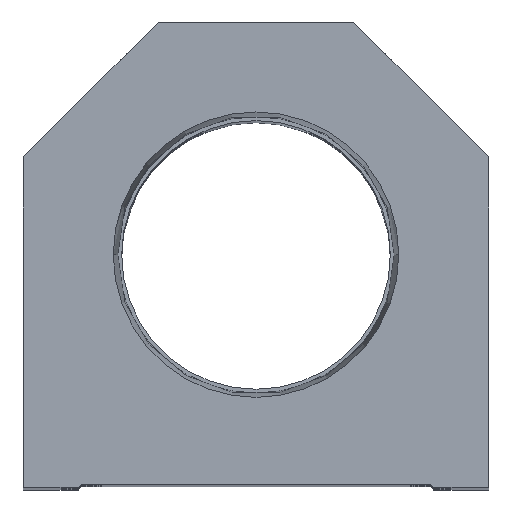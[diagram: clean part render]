
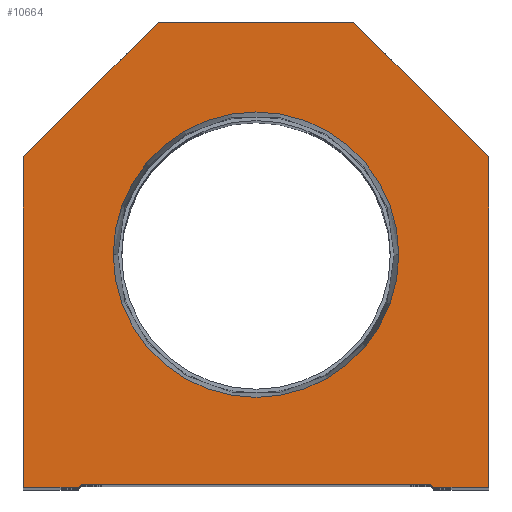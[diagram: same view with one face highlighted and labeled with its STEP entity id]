
A CAD part, top view. The second image highlights one B-rep face of the part: STEP entity #10664.
In plain terms, the highlighted planar face has unit normal (0, 0, 1).
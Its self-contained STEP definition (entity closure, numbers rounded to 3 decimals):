
#333 = AXIS2_PLACEMENT_3D ( 'NONE', #2465, #3892, #11067 ) ;
#819 = VECTOR ( 'NONE', #5958, 1000. ) ;
#920 = CARTESIAN_POINT ( 'NONE',  ( 16., 76.2, 0. ) ) ;
#1081 = FACE_OUTER_BOUND ( 'NONE', #15087, .T. ) ;
#1143 = LINE ( 'NONE', #6821, #1937 ) ;
#1570 = DIRECTION ( 'NONE',  ( 1., 0., 0. ) ) ;
#1906 = DIRECTION ( 'NONE',  ( -0.707, 0.707, 0. ) ) ;
#1924 = DIRECTION ( 'NONE',  ( 0.707, 0.707, 0. ) ) ;
#1937 = VECTOR ( 'NONE', #15548, 1000. ) ;
#1964 = CIRCLE ( 'NONE', #13635, 23.374 ) ;
#2457 = DIRECTION ( 'NONE',  ( 1., 0., 0. ) ) ;
#2465 = CARTESIAN_POINT ( 'NONE',  ( 0., 0., 0. ) ) ;
#2473 = ORIENTED_EDGE ( 'NONE', *, *, #14189, .T. ) ;
#2533 = ORIENTED_EDGE ( 'NONE', *, *, #14021, .F. ) ;
#2552 = VECTOR ( 'NONE', #9712, 1000. ) ;
#2744 = EDGE_CURVE ( 'NONE', #16574, #17675, #7462, .T. ) ;
#3222 = LINE ( 'NONE', #12011, #14263 ) ;
#3528 = CARTESIAN_POINT ( 'NONE',  ( -16., 76.2, 0. ) ) ;
#3833 = VECTOR ( 'NONE', #15164, 1000. ) ;
#3892 = DIRECTION ( 'NONE',  ( 0., 0., 1. ) ) ;
#3900 = ORIENTED_EDGE ( 'NONE', *, *, #14689, .T. ) ;
#4095 = ORIENTED_EDGE ( 'NONE', *, *, #11357, .T. ) ;
#4289 = VECTOR ( 'NONE', #17044, 1000. ) ;
#4645 = CARTESIAN_POINT ( 'NONE',  ( 0., 38.1, 0. ) ) ;
#5227 = CARTESIAN_POINT ( 'NONE',  ( -28.6, 0., 0. ) ) ;
#5323 = VERTEX_POINT ( 'NONE', #7792 ) ;
#5782 = LINE ( 'NONE', #17223, #819 ) ;
#5890 = CARTESIAN_POINT ( 'NONE',  ( 23.374, 38.1, 0. ) ) ;
#5958 = DIRECTION ( 'NONE',  ( 1., 0., 0. ) ) ;
#5988 = EDGE_CURVE ( 'NONE', #17701, #15364, #1964, .T. ) ;
#6095 = CIRCLE ( 'NONE', #17186, 23.374 ) ;
#6710 = ORIENTED_EDGE ( 'NONE', *, *, #18307, .T. ) ;
#6721 = VERTEX_POINT ( 'NONE', #18393 ) ;
#6821 = CARTESIAN_POINT ( 'NONE',  ( -38.1, 0., 0. ) ) ;
#6927 = EDGE_CURVE ( 'NONE', #7527, #16574, #5782, .T. ) ;
#7462 = LINE ( 'NONE', #8877, #9265 ) ;
#7527 = VERTEX_POINT ( 'NONE', #13815 ) ;
#7533 = LINE ( 'NONE', #11850, #17994 ) ;
#7792 = CARTESIAN_POINT ( 'NONE',  ( 16., 76.2, 0. ) ) ;
#8545 = DIRECTION ( 'NONE',  ( 0.707, -0.707, 0. ) ) ;
#8609 = CARTESIAN_POINT ( 'NONE',  ( -38.1, 54.1, 0. ) ) ;
#8877 = CARTESIAN_POINT ( 'NONE',  ( 38.1, 0., 0. ) ) ;
#9163 = EDGE_CURVE ( 'NONE', #9825, #18518, #17419, .T. ) ;
#9265 = VECTOR ( 'NONE', #13195, 1000. ) ;
#9437 = LINE ( 'NONE', #920, #3833 ) ;
#9530 = ORIENTED_EDGE ( 'NONE', *, *, #16493, .T. ) ;
#9563 = CARTESIAN_POINT ( 'NONE',  ( -28.6, 0.5, 0. ) ) ;
#9665 = CARTESIAN_POINT ( 'NONE',  ( -23.374, 38.1, 0. ) ) ;
#9712 = DIRECTION ( 'NONE',  ( 1., 0., 0. ) ) ;
#9825 = VERTEX_POINT ( 'NONE', #3528 ) ;
#9949 = CARTESIAN_POINT ( 'NONE',  ( 14.55, 14.55, 0. ) ) ;
#10664 = ADVANCED_FACE ( 'NONE', ( #15305, #1081 ), #13444, .T. ) ;
#10911 = VERTEX_POINT ( 'NONE', #15283 ) ;
#11067 = DIRECTION ( 'NONE',  ( 1., 0., 0. ) ) ;
#11357 = EDGE_CURVE ( 'NONE', #10911, #15154, #7533, .T. ) ;
#11459 = LINE ( 'NONE', #9949, #16386 ) ;
#11850 = CARTESIAN_POINT ( 'NONE',  ( -14.55, 14.55, 0. ) ) ;
#12011 = CARTESIAN_POINT ( 'NONE',  ( 38.1, 54.1, 0. ) ) ;
#12253 = LINE ( 'NONE', #5227, #2552 ) ;
#12986 = VECTOR ( 'NONE', #2457, 1000. ) ;
#13066 = DIRECTION ( 'NONE',  ( 0., 0., 1. ) ) ;
#13152 = DIRECTION ( 'NONE',  ( 1., 0., 0. ) ) ;
#13195 = DIRECTION ( 'NONE',  ( 0., 1., 0. ) ) ;
#13444 = PLANE ( 'NONE',  #333 ) ;
#13521 = CARTESIAN_POINT ( 'NONE',  ( 38.1, 54.1, 0. ) ) ;
#13635 = AXIS2_PLACEMENT_3D ( 'NONE', #15892, #15532, #1570 ) ;
#13815 = CARTESIAN_POINT ( 'NONE',  ( 29.1, 0., 0. ) ) ;
#13921 = ORIENTED_EDGE ( 'NONE', *, *, #5988, .F. ) ;
#13995 = ORIENTED_EDGE ( 'NONE', *, *, #2744, .T. ) ;
#14021 = EDGE_CURVE ( 'NONE', #15364, #17701, #6095, .T. ) ;
#14189 = EDGE_CURVE ( 'NONE', #15154, #6721, #18381, .T. ) ;
#14263 = VECTOR ( 'NONE', #1906, 1000. ) ;
#14489 = ORIENTED_EDGE ( 'NONE', *, *, #16392, .T. ) ;
#14561 = EDGE_CURVE ( 'NONE', #18518, #14575, #1143, .T. ) ;
#14575 = VERTEX_POINT ( 'NONE', #16009 ) ;
#14689 = EDGE_CURVE ( 'NONE', #14575, #10911, #12253, .T. ) ;
#15087 = EDGE_LOOP ( 'NONE', ( #3900, #4095, #2473, #14489, #17432, #13995, #9530, #6710, #16744, #16936 ) ) ;
#15154 = VERTEX_POINT ( 'NONE', #16327 ) ;
#15164 = DIRECTION ( 'NONE',  ( -1., 0., 0. ) ) ;
#15283 = CARTESIAN_POINT ( 'NONE',  ( -29.1, 0., 0. ) ) ;
#15305 = FACE_BOUND ( 'NONE', #17094, .T. ) ;
#15364 = VERTEX_POINT ( 'NONE', #5890 ) ;
#15532 = DIRECTION ( 'NONE',  ( 0., 0., 1. ) ) ;
#15548 = DIRECTION ( 'NONE',  ( 0., -1., 0. ) ) ;
#15892 = CARTESIAN_POINT ( 'NONE',  ( 0., 38.1, 0. ) ) ;
#16009 = CARTESIAN_POINT ( 'NONE',  ( -38.1, 0., 0. ) ) ;
#16327 = CARTESIAN_POINT ( 'NONE',  ( -28.6, 0.5, 0. ) ) ;
#16386 = VECTOR ( 'NONE', #8545, 1000. ) ;
#16392 = EDGE_CURVE ( 'NONE', #6721, #7527, #11459, .T. ) ;
#16493 = EDGE_CURVE ( 'NONE', #17675, #5323, #3222, .T. ) ;
#16574 = VERTEX_POINT ( 'NONE', #16707 ) ;
#16707 = CARTESIAN_POINT ( 'NONE',  ( 38.1, 0., 0. ) ) ;
#16744 = ORIENTED_EDGE ( 'NONE', *, *, #9163, .T. ) ;
#16936 = ORIENTED_EDGE ( 'NONE', *, *, #14561, .T. ) ;
#17044 = DIRECTION ( 'NONE',  ( -0.707, -0.707, 0. ) ) ;
#17094 = EDGE_LOOP ( 'NONE', ( #2533, #13921 ) ) ;
#17186 = AXIS2_PLACEMENT_3D ( 'NONE', #4645, #13066, #13152 ) ;
#17223 = CARTESIAN_POINT ( 'NONE',  ( 28.6, 0., 0. ) ) ;
#17419 = LINE ( 'NONE', #8609, #4289 ) ;
#17432 = ORIENTED_EDGE ( 'NONE', *, *, #6927, .T. ) ;
#17485 = CARTESIAN_POINT ( 'NONE',  ( -38.1, 54.1, 0. ) ) ;
#17675 = VERTEX_POINT ( 'NONE', #13521 ) ;
#17701 = VERTEX_POINT ( 'NONE', #9665 ) ;
#17994 = VECTOR ( 'NONE', #1924, 1000. ) ;
#18307 = EDGE_CURVE ( 'NONE', #5323, #9825, #9437, .T. ) ;
#18381 = LINE ( 'NONE', #9563, #12986 ) ;
#18393 = CARTESIAN_POINT ( 'NONE',  ( 28.6, 0.5, 0. ) ) ;
#18518 = VERTEX_POINT ( 'NONE', #17485 ) ;
